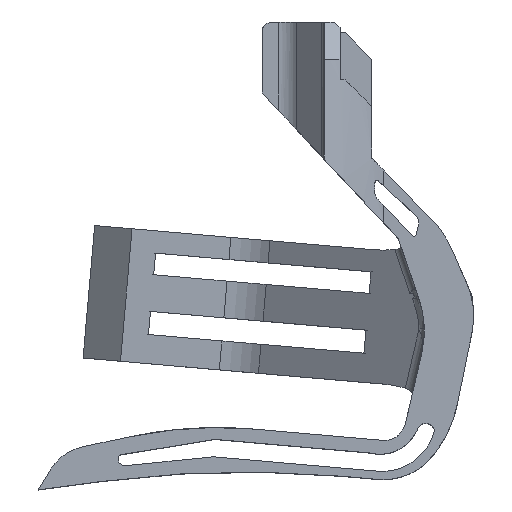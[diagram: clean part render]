
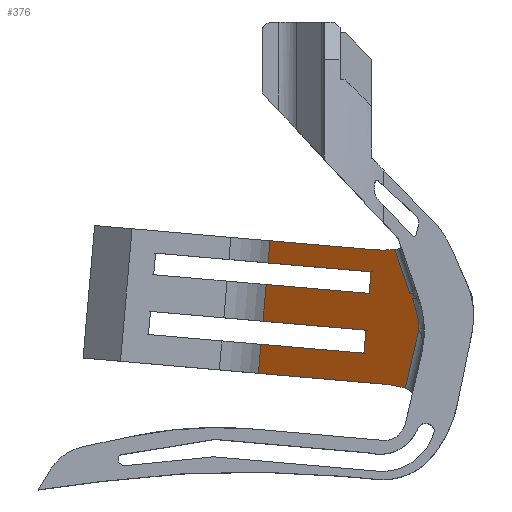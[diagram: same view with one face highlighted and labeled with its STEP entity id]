
A CAD part, top view. The second image highlights one B-rep face of the part: STEP entity #376.
In plain terms, the highlighted planar face has unit normal (-0.613, 0.054, 0.788).
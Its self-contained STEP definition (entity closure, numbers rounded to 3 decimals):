
#376=ADVANCED_FACE('',(#775),#619,.F.);
#619=PLANE('',#5014);
#775=FACE_OUTER_BOUND('',#997,.T.);
#997=EDGE_LOOP('',(#2199,#2200,#2201,#2202,#2203,#2204,#2205,#2206,#2207,
#2208,#2209,#2210,#2211,#2212,#2213,#2214,#2215));
#1273=LINE('',#6840,#1736);
#1274=LINE('',#6844,#1737);
#1275=LINE('',#6846,#1738);
#1276=LINE('',#6848,#1739);
#1277=LINE('',#6850,#1740);
#1278=LINE('',#6852,#1741);
#1279=LINE('',#6854,#1742);
#1280=LINE('',#6856,#1743);
#1281=LINE('',#6858,#1744);
#1282=LINE('',#6860,#1745);
#1283=LINE('',#6862,#1746);
#1284=LINE('',#6864,#1747);
#1285=LINE('',#6868,#1748);
#1736=VECTOR('',#5469,1.);
#1737=VECTOR('',#5472,1.);
#1738=VECTOR('',#5473,1.);
#1739=VECTOR('',#5474,1.);
#1740=VECTOR('',#5475,1.);
#1741=VECTOR('',#5476,1.);
#1742=VECTOR('',#5477,1.);
#1743=VECTOR('',#5478,1.);
#1744=VECTOR('',#5479,1.);
#1745=VECTOR('',#5480,1.);
#1746=VECTOR('',#5481,1.);
#1747=VECTOR('',#5482,1.);
#1748=VECTOR('',#5485,1.);
#2199=ORIENTED_EDGE('',*,*,#4146,.T.);
#2200=ORIENTED_EDGE('',*,*,#4147,.T.);
#2201=ORIENTED_EDGE('',*,*,#4148,.F.);
#2202=ORIENTED_EDGE('',*,*,#4149,.T.);
#2203=ORIENTED_EDGE('',*,*,#4150,.F.);
#2204=ORIENTED_EDGE('',*,*,#4151,.T.);
#2205=ORIENTED_EDGE('',*,*,#4152,.T.);
#2206=ORIENTED_EDGE('',*,*,#4153,.T.);
#2207=ORIENTED_EDGE('',*,*,#4154,.T.);
#2208=ORIENTED_EDGE('',*,*,#4155,.T.);
#2209=ORIENTED_EDGE('',*,*,#4156,.T.);
#2210=ORIENTED_EDGE('',*,*,#4157,.T.);
#2211=ORIENTED_EDGE('',*,*,#4158,.T.);
#2212=ORIENTED_EDGE('',*,*,#4159,.T.);
#2213=ORIENTED_EDGE('',*,*,#4160,.T.);
#2214=ORIENTED_EDGE('',*,*,#4161,.T.);
#2215=ORIENTED_EDGE('',*,*,#4162,.T.);
#3665=VERTEX_POINT('',#6836);
#3666=VERTEX_POINT('',#6837);
#3667=VERTEX_POINT('',#6839);
#3668=VERTEX_POINT('',#6841);
#3669=VERTEX_POINT('',#6843);
#3670=VERTEX_POINT('',#6845);
#3671=VERTEX_POINT('',#6847);
#3672=VERTEX_POINT('',#6849);
#3673=VERTEX_POINT('',#6851);
#3674=VERTEX_POINT('',#6853);
#3675=VERTEX_POINT('',#6855);
#3676=VERTEX_POINT('',#6857);
#3677=VERTEX_POINT('',#6859);
#3678=VERTEX_POINT('',#6861);
#3679=VERTEX_POINT('',#6863);
#3680=VERTEX_POINT('',#6865);
#3681=VERTEX_POINT('',#6867);
#4146=EDGE_CURVE('',#3665,#3666,#4879,.T.);
#4147=EDGE_CURVE('',#3666,#3667,#4880,.T.);
#4148=EDGE_CURVE('',#3668,#3667,#1273,.T.);
#4149=EDGE_CURVE('',#3668,#3669,#4881,.T.);
#4150=EDGE_CURVE('',#3670,#3669,#1274,.T.);
#4151=EDGE_CURVE('',#3670,#3671,#1275,.T.);
#4152=EDGE_CURVE('',#3671,#3672,#1276,.T.);
#4153=EDGE_CURVE('',#3672,#3673,#1277,.T.);
#4154=EDGE_CURVE('',#3673,#3674,#1278,.T.);
#4155=EDGE_CURVE('',#3674,#3675,#1279,.T.);
#4156=EDGE_CURVE('',#3675,#3676,#1280,.T.);
#4157=EDGE_CURVE('',#3676,#3677,#1281,.T.);
#4158=EDGE_CURVE('',#3677,#3678,#1282,.T.);
#4159=EDGE_CURVE('',#3678,#3679,#1283,.T.);
#4160=EDGE_CURVE('',#3679,#3680,#1284,.T.);
#4161=EDGE_CURVE('',#3680,#3681,#4882,.T.);
#4162=EDGE_CURVE('',#3681,#3665,#1285,.T.);
#4879=ELLIPSE('',#5010,20.407,16.081);
#4880=ELLIPSE('',#5011,0.635,0.5);
#4881=ELLIPSE('',#5012,25.988,16.);
#4882=ELLIPSE('',#5013,20.303,12.5);
#5010=AXIS2_PLACEMENT_3D('',#6835,#5465,#5466);
#5011=AXIS2_PLACEMENT_3D('',#6838,#5467,#5468);
#5012=AXIS2_PLACEMENT_3D('',#6842,#5470,#5471);
#5013=AXIS2_PLACEMENT_3D('',#6866,#5483,#5484);
#5014=AXIS2_PLACEMENT_3D('',#6869,#5486,#5487);
#5465=DIRECTION('',(-0.613,0.054,0.788));
#5466=DIRECTION('',(-0.785,0.069,-0.616));
#5467=DIRECTION('',(-0.613,0.054,0.788));
#5468=DIRECTION('',(-0.785,0.069,-0.616));
#5469=DIRECTION('',(0.31,-0.901,0.303));
#5470=DIRECTION('',(0.613,-0.054,-0.788));
#5471=DIRECTION('',(-0.785,0.069,-0.616));
#5472=DIRECTION('',(0.785,-0.069,0.616));
#5473=DIRECTION('',(-0.087,-0.996,0.));
#5474=DIRECTION('',(0.785,-0.069,0.616));
#5475=DIRECTION('',(-0.087,-0.996,0.));
#5476=DIRECTION('',(-0.785,0.069,-0.616));
#5477=DIRECTION('',(-0.087,-0.996,0.));
#5478=DIRECTION('',(0.785,-0.069,0.616));
#5479=DIRECTION('',(-0.087,-0.996,0.));
#5480=DIRECTION('',(-0.785,0.069,-0.616));
#5481=DIRECTION('',(-0.087,-0.996,0.));
#5482=DIRECTION('',(0.785,-0.069,0.616));
#5483=DIRECTION('',(0.613,-0.054,-0.788));
#5484=DIRECTION('',(0.785,-0.069,0.616));
#5485=DIRECTION('',(0.225,0.968,0.109));
#5486=DIRECTION('',(0.613,-0.054,-0.788));
#5487=DIRECTION('',(-0.789,0.,-0.614));
#6835=CARTESIAN_POINT('',(0.261,-41.932,-32.273));
#6836=CARTESIAN_POINT('',(16.333,-41.395,-19.801));
#6837=CARTESIAN_POINT('',(15.079,-35.686,-21.165));
#6838=CARTESIAN_POINT('',(14.934,-35.207,-21.311));
#6839=CARTESIAN_POINT('',(14.632,-34.809,-21.573));
#6840=CARTESIAN_POINT('',(12.847,-29.614,-23.317));
#6841=CARTESIAN_POINT('',(11.765,-26.469,-24.372));
#6842=CARTESIAN_POINT('',(8.803,-10.514,-27.764));
#6843=CARTESIAN_POINT('',(7.409,-26.453,-27.764));
#6844=CARTESIAN_POINT('',(-8.531,-25.058,-40.265));
#6845=CARTESIAN_POINT('',(-11.662,-24.784,-42.721));
#6846=CARTESIAN_POINT('',(-11.844,-26.862,-42.721));
#6847=CARTESIAN_POINT('',(-12.026,-28.94,-42.721));
#6848=CARTESIAN_POINT('',(-8.894,-29.214,-40.265));
#6849=CARTESIAN_POINT('',(7.319,-30.632,-27.55));
#6850=CARTESIAN_POINT('',(7.682,-26.477,-27.55));
#6851=CARTESIAN_POINT('',(6.963,-34.692,-27.55));
#6852=CARTESIAN_POINT('',(-9.249,-33.274,-40.265));
#6853=CARTESIAN_POINT('',(-12.381,-33.,-42.721));
#6854=CARTESIAN_POINT('',(-13.841,-49.689,-42.721));
#6855=CARTESIAN_POINT('',(-12.985,-39.898,-42.721));
#6856=CARTESIAN_POINT('',(-9.853,-40.172,-40.265));
#6857=CARTESIAN_POINT('',(6.36,-41.59,-27.55));
#6858=CARTESIAN_POINT('',(7.682,-26.477,-27.55));
#6859=CARTESIAN_POINT('',(5.98,-45.932,-27.55));
#6860=CARTESIAN_POINT('',(-10.233,-44.514,-40.265));
#6861=CARTESIAN_POINT('',(-13.364,-44.24,-42.721));
#6862=CARTESIAN_POINT('',(-13.841,-49.689,-42.721));
#6863=CARTESIAN_POINT('',(-13.841,-49.689,-42.721));
#6864=CARTESIAN_POINT('',(-10.709,-49.963,-40.265));
#6865=CARTESIAN_POINT('',(9.692,-51.748,-24.264));
#6866=CARTESIAN_POINT('',(8.603,-64.201,-24.264));
#6867=CARTESIAN_POINT('',(13.75,-52.524,-21.054));
#6868=CARTESIAN_POINT('',(18.131,-33.65,-18.929));
#6869=CARTESIAN_POINT('',(-8.531,-25.058,-40.265));
